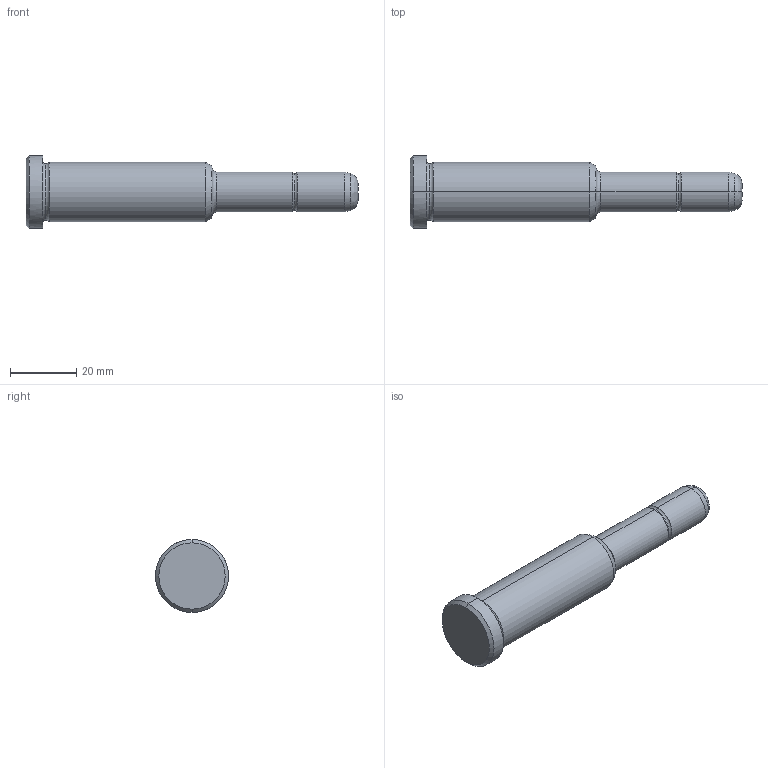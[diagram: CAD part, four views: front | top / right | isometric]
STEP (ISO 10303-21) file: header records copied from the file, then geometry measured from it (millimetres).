
FILE_DESCRIPTION(('CATIA V5 STEP Exchange'),'2;1');
FILE_NAME('C:\Users\Utente\Desktop\IO LAVORO\3D X SITO CF\X SITO\PLASTICA\351\351-12X56X100.stp','2021-08-17T13:14:59+00:00',('none'),('none'),'CATIA Version 5 Release 20 GA (IN-10)','CATIA V5 STEP AP203','none');
FILE_SCHEMA(('CONFIG_CONTROL_DESIGN'));
Length unit declared in the file: millimetre
Products named in the file (1): 351-12X56X100
Bounding box: 100 x 22 x 22 mm (x, y, z)
Volume: 19613.7 mm3; surface area: 5488.4 mm2
Topology: 1 solids, 1 shells, 30 faces, 86 edges, 60 vertices
Faces by surface type: torus 10, cylinder 8, cone 6, plane 4, bspline 2
Entity records: 1128 total; most frequent: CARTESIAN_POINT 343, ORIENTED_EDGE 172, DIRECTION 124, EDGE_CURVE 86, AXIS2_PLACEMENT_3D 83, VERTEX_POINT 60, CIRCLE 54, EDGE_LOOP 32
